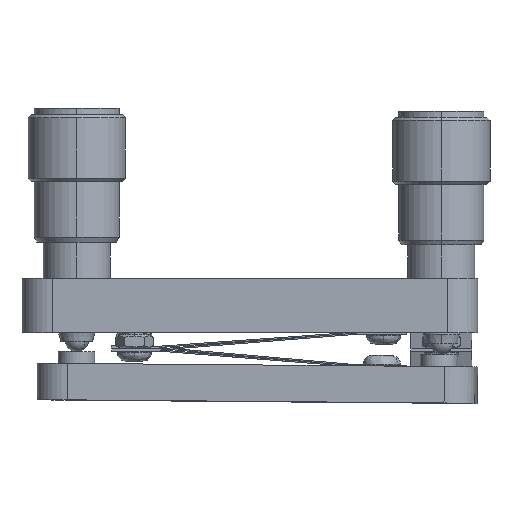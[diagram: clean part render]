
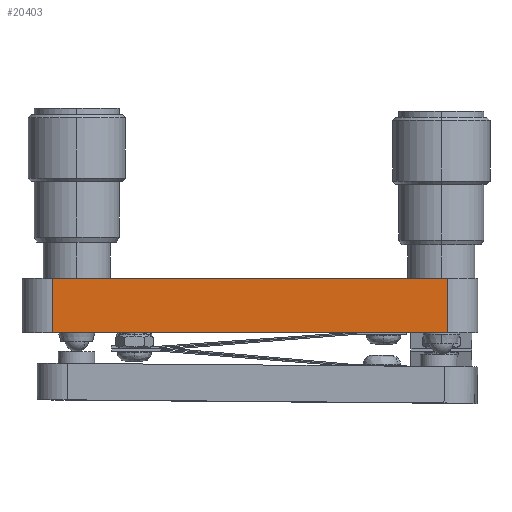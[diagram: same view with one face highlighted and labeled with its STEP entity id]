
A CAD part, left-side view. The second image highlights one B-rep face of the part: STEP entity #20403.
In plain terms, the highlighted planar face has unit normal (-1, 0, 0).
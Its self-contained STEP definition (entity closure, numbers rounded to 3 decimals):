
#5529 = CARTESIAN_POINT ( 'NONE',  ( 3., 5., 9. ) ) ;
#5530 = DIRECTION ( 'NONE',  ( 0., 1., 0. ) ) ;
#5531 = VECTOR ( 'NONE', #5530, 1000. ) ;
#5532 = CARTESIAN_POINT ( 'NONE',  ( 3., 75., 9. ) ) ;
#5533 = LINE ( 'NONE', #5532, #5531 ) ;
#5534 = CARTESIAN_POINT ( 'NONE',  ( 3., 70., 9. ) ) ;
#12745 = FACE_OUTER_BOUND ( 'NONE', #20404, .T. ) ;
#12756 = DIRECTION ( 'NONE',  ( 0., -1., 0. ) ) ;
#12757 = DIRECTION ( 'NONE',  ( -1., 0., 0. ) ) ;
#12758 = CARTESIAN_POINT ( 'NONE',  ( 3., 75., 9. ) ) ;
#12759 = AXIS2_PLACEMENT_3D ( 'NONE', #12758, #12757, #12756 ) ;
#12760 = PLANE ( 'NONE',  #12759 ) ;
#14077 = DIRECTION ( 'NONE',  ( 0., 0., 1. ) ) ;
#14078 = VECTOR ( 'NONE', #14077, 1000. ) ;
#14079 = CARTESIAN_POINT ( 'NONE',  ( 3., 70., 9. ) ) ;
#14080 = LINE ( 'NONE', #14079, #14078 ) ;
#14135 = DIRECTION ( 'NONE',  ( 0., 1., 0. ) ) ;
#14136 = VECTOR ( 'NONE', #14135, 1000. ) ;
#14137 = CARTESIAN_POINT ( 'NONE',  ( 3., 37.5, 0. ) ) ;
#14138 = LINE ( 'NONE', #14137, #14136 ) ;
#14139 = CARTESIAN_POINT ( 'NONE',  ( 3., 70., 0. ) ) ;
#14149 = CARTESIAN_POINT ( 'NONE',  ( 3., 5., 0. ) ) ;
#14150 = DIRECTION ( 'NONE',  ( 0., 0., 1. ) ) ;
#14151 = VECTOR ( 'NONE', #14150, 1000. ) ;
#14152 = CARTESIAN_POINT ( 'NONE',  ( 3., 5., 9. ) ) ;
#14158 = LINE ( 'NONE', #14152, #14151 ) ;
#19793 = VERTEX_POINT ( 'NONE', #5534 ) ;
#19797 = EDGE_CURVE ( 'NONE', #19798, #19793, #5533, .T. ) ;
#19798 = VERTEX_POINT ( 'NONE', #5529 ) ;
#20329 = EDGE_CURVE ( 'NONE', #20330, #19793, #14080, .T. ) ;
#20330 = VERTEX_POINT ( 'NONE', #14139 ) ;
#20331 = ORIENTED_EDGE ( 'NONE', *, *, #20332, .F. ) ;
#20332 = EDGE_CURVE ( 'NONE', #20356, #20330, #14138, .T. ) ;
#20333 = ORIENTED_EDGE ( 'NONE', *, *, #20355, .T. ) ;
#20334 = ORIENTED_EDGE ( 'NONE', *, *, #19797, .T. ) ;
#20355 = EDGE_CURVE ( 'NONE', #20356, #19798, #14158, .T. ) ;
#20356 = VERTEX_POINT ( 'NONE', #14149 ) ;
#20403 = ADVANCED_FACE ( 'NONE', ( #12745 ), #12760, .T. ) ;
#20404 = EDGE_LOOP ( 'NONE', ( #20406, #20331, #20333, #20334 ) ) ;
#20406 = ORIENTED_EDGE ( 'NONE', *, *, #20329, .F. ) ;
